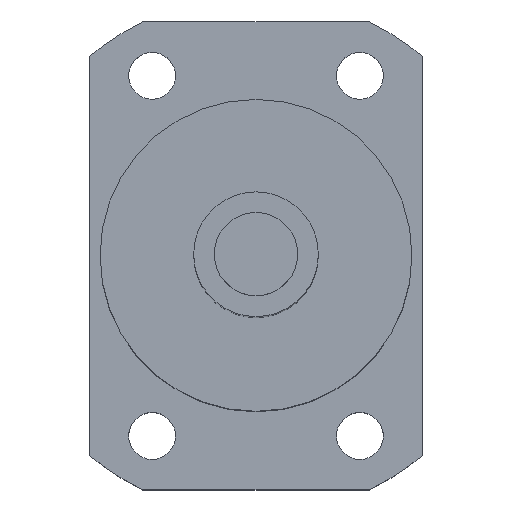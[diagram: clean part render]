
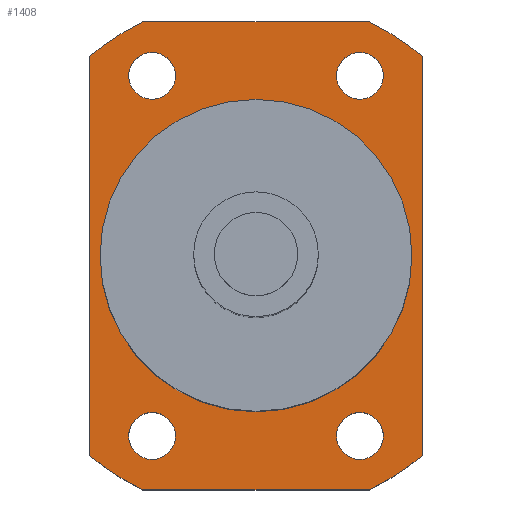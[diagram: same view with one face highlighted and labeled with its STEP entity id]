
A CAD part, top view. The second image highlights one B-rep face of the part: STEP entity #1408.
In plain terms, the highlighted planar face has unit normal (0, 0, 1).
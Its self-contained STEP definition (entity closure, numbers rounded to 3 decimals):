
#328=CARTESIAN_POINT('',(10.,17.321,130.));
#329=DIRECTION('',(0.,0.,-1.));
#330=DIRECTION('',(1.,0.,0.));
#331=AXIS2_PLACEMENT_3D('',#328,#329,#330);
#333=CARTESIAN_POINT('',(10.,17.321,130.));
#334=DIRECTION('',(0.,0.,-1.));
#335=DIRECTION('',(-1.,0.,0.));
#336=AXIS2_PLACEMENT_3D('',#333,#334,#335);
#338=CARTESIAN_POINT('',(-10.,17.321,130.));
#339=DIRECTION('',(0.,0.,-1.));
#340=DIRECTION('',(1.,0.,0.));
#341=AXIS2_PLACEMENT_3D('',#338,#339,#340);
#343=CARTESIAN_POINT('',(-10.,17.321,130.));
#344=DIRECTION('',(0.,0.,-1.));
#345=DIRECTION('',(-1.,0.,0.));
#346=AXIS2_PLACEMENT_3D('',#343,#344,#345);
#348=CARTESIAN_POINT('',(10.,-17.321,130.));
#349=DIRECTION('',(0.,0.,-1.));
#350=DIRECTION('',(1.,0.,0.));
#351=AXIS2_PLACEMENT_3D('',#348,#349,#350);
#353=CARTESIAN_POINT('',(10.,-17.321,130.));
#354=DIRECTION('',(0.,0.,-1.));
#355=DIRECTION('',(-1.,0.,0.));
#356=AXIS2_PLACEMENT_3D('',#353,#354,#355);
#358=CARTESIAN_POINT('',(-10.,-17.321,130.));
#359=DIRECTION('',(0.,0.,-1.));
#360=DIRECTION('',(1.,0.,0.));
#361=AXIS2_PLACEMENT_3D('',#358,#359,#360);
#363=CARTESIAN_POINT('',(-10.,-17.321,130.));
#364=DIRECTION('',(0.,0.,-1.));
#365=DIRECTION('',(-1.,0.,0.));
#366=AXIS2_PLACEMENT_3D('',#363,#364,#365);
#368=CARTESIAN_POINT('',(0.,0.,130.));
#369=DIRECTION('',(0.,0.,1.));
#370=DIRECTION('',(1.,0.,0.));
#371=AXIS2_PLACEMENT_3D('',#368,#369,#370);
#373=CARTESIAN_POINT('',(0.,0.,130.));
#374=DIRECTION('',(0.,0.,1.));
#375=DIRECTION('',(-1.,0.,0.));
#376=AXIS2_PLACEMENT_3D('',#373,#374,#375);
#378=DIRECTION('',(1.,0.,0.));
#379=VECTOR('',#378,21.794);
#380=CARTESIAN_POINT('',(-10.897,22.5,130.));
#381=LINE('',#380,#379);
#382=CARTESIAN_POINT('',(0.,0.,130.));
#383=DIRECTION('',(0.,0.,1.));
#384=DIRECTION('',(0.64,0.768,0.));
#385=AXIS2_PLACEMENT_3D('',#382,#383,#384);
#387=DIRECTION('',(0.,1.,0.));
#388=VECTOR('',#387,38.419);
#389=CARTESIAN_POINT('',(16.,-19.209,130.));
#390=LINE('',#389,#388);
#391=CARTESIAN_POINT('',(0.,0.,130.));
#392=DIRECTION('',(0.,0.,1.));
#393=DIRECTION('',(0.436,-0.9,0.));
#394=AXIS2_PLACEMENT_3D('',#391,#392,#393);
#396=DIRECTION('',(1.,0.,0.));
#397=VECTOR('',#396,21.794);
#398=CARTESIAN_POINT('',(-10.897,-22.5,130.));
#399=LINE('',#398,#397);
#400=CARTESIAN_POINT('',(0.,0.,130.));
#401=DIRECTION('',(0.,0.,1.));
#402=DIRECTION('',(-0.64,-0.768,0.));
#403=AXIS2_PLACEMENT_3D('',#400,#401,#402);
#405=DIRECTION('',(0.,-1.,0.));
#406=VECTOR('',#405,38.419);
#407=CARTESIAN_POINT('',(-16.,19.209,130.));
#408=LINE('',#407,#406);
#409=CARTESIAN_POINT('',(0.,0.,130.));
#410=DIRECTION('',(0.,0.,1.));
#411=DIRECTION('',(-0.436,0.9,0.));
#412=AXIS2_PLACEMENT_3D('',#409,#410,#411);
#721=CARTESIAN_POINT('',(12.25,17.321,130.));
#722=CARTESIAN_POINT('',(7.75,17.321,130.));
#723=VERTEX_POINT('',#721);
#724=VERTEX_POINT('',#722);
#725=CARTESIAN_POINT('',(-7.75,17.321,130.));
#726=CARTESIAN_POINT('',(-12.25,17.321,130.));
#727=VERTEX_POINT('',#725);
#728=VERTEX_POINT('',#726);
#729=CARTESIAN_POINT('',(12.25,-17.321,130.));
#730=CARTESIAN_POINT('',(7.75,-17.321,130.));
#731=VERTEX_POINT('',#729);
#732=VERTEX_POINT('',#730);
#733=CARTESIAN_POINT('',(-7.75,-17.321,130.));
#734=CARTESIAN_POINT('',(-12.25,-17.321,130.));
#735=VERTEX_POINT('',#733);
#736=VERTEX_POINT('',#734);
#737=CARTESIAN_POINT('',(-16.,19.209,130.));
#738=CARTESIAN_POINT('',(-16.,-19.209,130.));
#739=VERTEX_POINT('',#737);
#740=VERTEX_POINT('',#738);
#741=CARTESIAN_POINT('',(16.,-19.209,130.));
#742=CARTESIAN_POINT('',(16.,19.209,130.));
#743=VERTEX_POINT('',#741);
#744=VERTEX_POINT('',#742);
#753=CARTESIAN_POINT('',(15.,0.,130.));
#754=CARTESIAN_POINT('',(-15.,0.,130.));
#755=VERTEX_POINT('',#753);
#756=VERTEX_POINT('',#754);
#829=CARTESIAN_POINT('',(-10.897,22.5,130.));
#830=CARTESIAN_POINT('',(10.897,22.5,130.));
#831=VERTEX_POINT('',#829);
#832=VERTEX_POINT('',#830);
#833=CARTESIAN_POINT('',(-10.897,-22.5,130.));
#834=CARTESIAN_POINT('',(10.897,-22.5,130.));
#835=VERTEX_POINT('',#833);
#836=VERTEX_POINT('',#834);
#1357=CARTESIAN_POINT('',(0.,0.,130.));
#1358=DIRECTION('',(0.,0.,1.));
#1359=DIRECTION('',(1.,0.,0.));
#1360=AXIS2_PLACEMENT_3D('',#1357,#1358,#1359);
#1361=PLANE('',#1360);
#1363=ORIENTED_EDGE('',*,*,#1362,.T.);
#1365=ORIENTED_EDGE('',*,*,#1364,.F.);
#1367=ORIENTED_EDGE('',*,*,#1366,.F.);
#1369=ORIENTED_EDGE('',*,*,#1368,.F.);
#1371=ORIENTED_EDGE('',*,*,#1370,.F.);
#1373=ORIENTED_EDGE('',*,*,#1372,.F.);
#1375=ORIENTED_EDGE('',*,*,#1374,.F.);
#1377=ORIENTED_EDGE('',*,*,#1376,.F.);
#1378=EDGE_LOOP('',(#1363,#1365,#1367,#1369,#1371,#1373,#1375,#1377));
#1379=FACE_OUTER_BOUND('',#1378,.F.);
#1380=ORIENTED_EDGE('',*,*,#1337,.F.);
#1381=ORIENTED_EDGE('',*,*,#1351,.F.);
#1382=EDGE_LOOP('',(#1380,#1381));
#1383=FACE_BOUND('',#1382,.F.);
#1385=ORIENTED_EDGE('',*,*,#1384,.F.);
#1387=ORIENTED_EDGE('',*,*,#1386,.F.);
#1388=EDGE_LOOP('',(#1385,#1387));
#1389=FACE_BOUND('',#1388,.F.);
#1391=ORIENTED_EDGE('',*,*,#1390,.F.);
#1393=ORIENTED_EDGE('',*,*,#1392,.F.);
#1394=EDGE_LOOP('',(#1391,#1393));
#1395=FACE_BOUND('',#1394,.F.);
#1397=ORIENTED_EDGE('',*,*,#1396,.F.);
#1399=ORIENTED_EDGE('',*,*,#1398,.F.);
#1400=EDGE_LOOP('',(#1397,#1399));
#1401=FACE_BOUND('',#1400,.F.);
#1403=ORIENTED_EDGE('',*,*,#1402,.T.);
#1405=ORIENTED_EDGE('',*,*,#1404,.T.);
#1406=EDGE_LOOP('',(#1403,#1405));
#1407=FACE_BOUND('',#1406,.F.);
#1408=ADVANCED_FACE('',(#1379,#1383,#1389,#1395,#1401,#1407),#1361,.T.);
#332=CIRCLE('',#331,2.25);
#337=CIRCLE('',#336,2.25);
#342=CIRCLE('',#341,2.25);
#347=CIRCLE('',#346,2.25);
#352=CIRCLE('',#351,2.25);
#357=CIRCLE('',#356,2.25);
#362=CIRCLE('',#361,2.25);
#367=CIRCLE('',#366,2.25);
#372=CIRCLE('',#371,15.);
#377=CIRCLE('',#376,15.);
#386=CIRCLE('',#385,25.);
#395=CIRCLE('',#394,25.);
#404=CIRCLE('',#403,25.);
#413=CIRCLE('',#412,25.);
#1337=EDGE_CURVE('',#723,#724,#332,.T.);
#1351=EDGE_CURVE('',#724,#723,#337,.T.);
#1362=EDGE_CURVE('',#831,#832,#381,.T.);
#1364=EDGE_CURVE('',#744,#832,#386,.T.);
#1366=EDGE_CURVE('',#743,#744,#390,.T.);
#1368=EDGE_CURVE('',#836,#743,#395,.T.);
#1370=EDGE_CURVE('',#835,#836,#399,.T.);
#1372=EDGE_CURVE('',#740,#835,#404,.T.);
#1374=EDGE_CURVE('',#739,#740,#408,.T.);
#1376=EDGE_CURVE('',#831,#739,#413,.T.);
#1384=EDGE_CURVE('',#727,#728,#342,.T.);
#1386=EDGE_CURVE('',#728,#727,#347,.T.);
#1390=EDGE_CURVE('',#731,#732,#352,.T.);
#1392=EDGE_CURVE('',#732,#731,#357,.T.);
#1396=EDGE_CURVE('',#735,#736,#362,.T.);
#1398=EDGE_CURVE('',#736,#735,#367,.T.);
#1402=EDGE_CURVE('',#755,#756,#372,.T.);
#1404=EDGE_CURVE('',#756,#755,#377,.T.);
